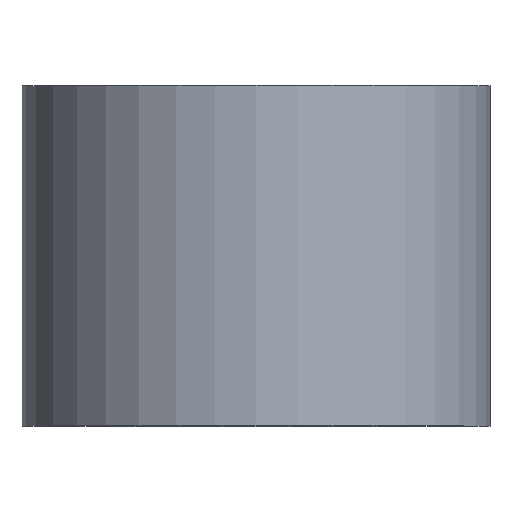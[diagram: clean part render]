
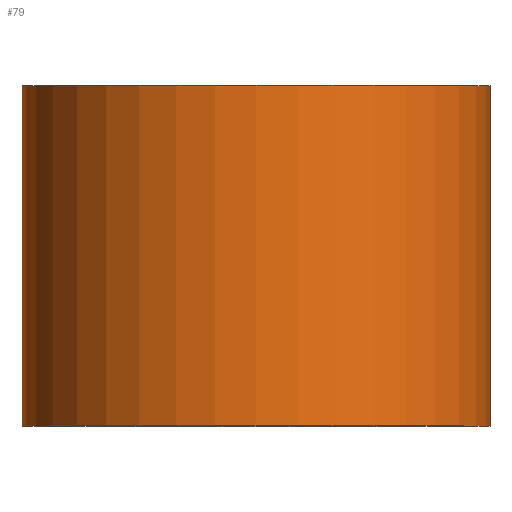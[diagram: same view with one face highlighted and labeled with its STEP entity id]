
A CAD part, top view. The second image highlights one B-rep face of the part: STEP entity #79.
In plain terms, the highlighted cylindrical face has radius 11 mm (diameter 22 mm), a partial arc.
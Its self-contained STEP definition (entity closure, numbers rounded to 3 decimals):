
#7 = CARTESIAN_POINT ( 'NONE',  ( -11., 16., 0. ) ) ;
#10 = AXIS2_PLACEMENT_3D ( 'NONE', #103, #191, #54 ) ;
#16 = EDGE_CURVE ( 'NONE', #264, #241, #271, .T. ) ;
#22 = LINE ( 'NONE', #60, #144 ) ;
#45 = EDGE_CURVE ( 'NONE', #241, #78, #240, .T. ) ;
#54 = DIRECTION ( 'NONE',  ( -1., 0., 0. ) ) ;
#60 = CARTESIAN_POINT ( 'NONE',  ( -11., 0., 0. ) ) ;
#73 = FACE_OUTER_BOUND ( 'NONE', #82, .T. ) ;
#78 = VERTEX_POINT ( 'NONE', #138 ) ;
#79 = ADVANCED_FACE ( 'NONE', ( #73 ), #187, .T. ) ;
#82 = EDGE_LOOP ( 'NONE', ( #100, #131, #170, #263 ) ) ;
#86 = AXIS2_PLACEMENT_3D ( 'NONE', #196, #95, #293 ) ;
#93 = DIRECTION ( 'NONE',  ( 0., 1., 0. ) ) ;
#95 = DIRECTION ( 'NONE',  ( 0., 1., 0. ) ) ;
#100 = ORIENTED_EDGE ( 'NONE', *, *, #16, .T. ) ;
#103 = CARTESIAN_POINT ( 'NONE',  ( 0., 16., 0. ) ) ;
#123 = EDGE_CURVE ( 'NONE', #264, #234, #22, .T. ) ;
#131 = ORIENTED_EDGE ( 'NONE', *, *, #45, .T. ) ;
#138 = CARTESIAN_POINT ( 'NONE',  ( 11., 16., 0. ) ) ;
#144 = VECTOR ( 'NONE', #249, 1000. ) ;
#160 = DIRECTION ( 'NONE',  ( 0., 1., 0. ) ) ;
#170 = ORIENTED_EDGE ( 'NONE', *, *, #206, .F. ) ;
#176 = CIRCLE ( 'NONE', #10, 11. ) ;
#186 = CARTESIAN_POINT ( 'NONE',  ( 11., 0., 0. ) ) ;
#187 = CYLINDRICAL_SURFACE ( 'NONE', #236, 11. ) ;
#191 = DIRECTION ( 'NONE',  ( 0., 1., 0. ) ) ;
#196 = CARTESIAN_POINT ( 'NONE',  ( 0., 0., 0. ) ) ;
#200 = DIRECTION ( 'NONE',  ( -1., 0., 0. ) ) ;
#201 = CARTESIAN_POINT ( 'NONE',  ( -11., 0., 0. ) ) ;
#206 = EDGE_CURVE ( 'NONE', #234, #78, #176, .T. ) ;
#225 = VECTOR ( 'NONE', #93, 1000. ) ;
#234 = VERTEX_POINT ( 'NONE', #7 ) ;
#236 = AXIS2_PLACEMENT_3D ( 'NONE', #244, #160, #200 ) ;
#240 = LINE ( 'NONE', #248, #225 ) ;
#241 = VERTEX_POINT ( 'NONE', #186 ) ;
#244 = CARTESIAN_POINT ( 'NONE',  ( 0., 0., 0. ) ) ;
#248 = CARTESIAN_POINT ( 'NONE',  ( 11., 0., 0. ) ) ;
#249 = DIRECTION ( 'NONE',  ( 0., 1., 0. ) ) ;
#263 = ORIENTED_EDGE ( 'NONE', *, *, #123, .F. ) ;
#264 = VERTEX_POINT ( 'NONE', #201 ) ;
#271 = CIRCLE ( 'NONE', #86, 11. ) ;
#293 = DIRECTION ( 'NONE',  ( -1., 0., 0. ) ) ;
